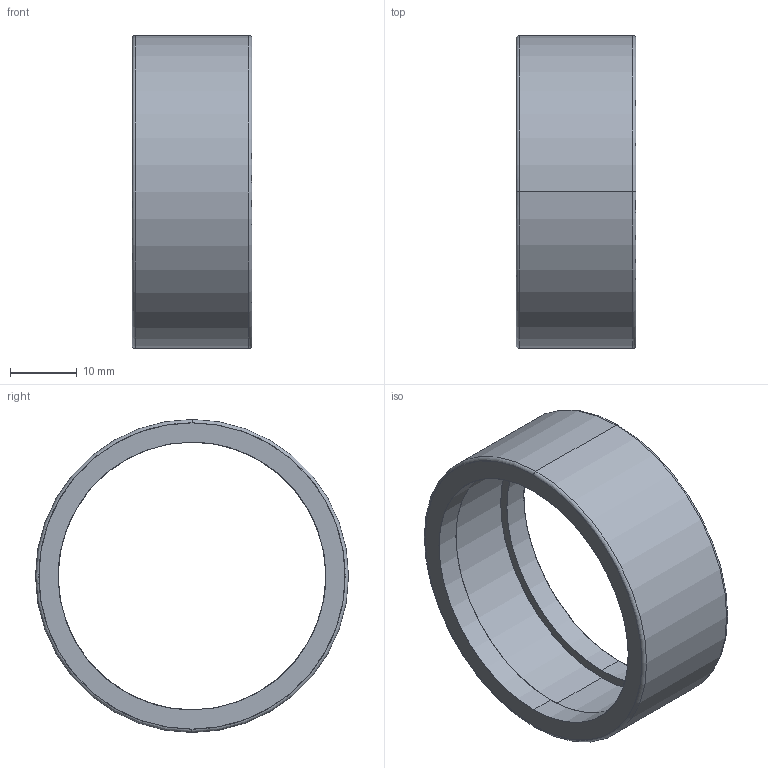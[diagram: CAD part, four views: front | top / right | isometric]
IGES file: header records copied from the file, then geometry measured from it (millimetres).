
Start section: START RECORD GO HERE.
Global section: file name: _NPart#1095.igs; native system: IBM CATIA IGES - CATIA Version 5 Release 18 ; preprocessor: CATIA Version 5 Release 18 ; author: Propriétaire; organization: FUJITSU-79916BB; date: 20090111.155035; units: millimetre
Bounding box: 18 x 47 x 47 mm (x, y, z)
Surface area: 6226.1 mm2 (no closed solid volume)
Topology: 0 solids, 0 shells, 16 faces, 64 edges, 64 vertices
Faces by surface type: revolution 12, plane 4
